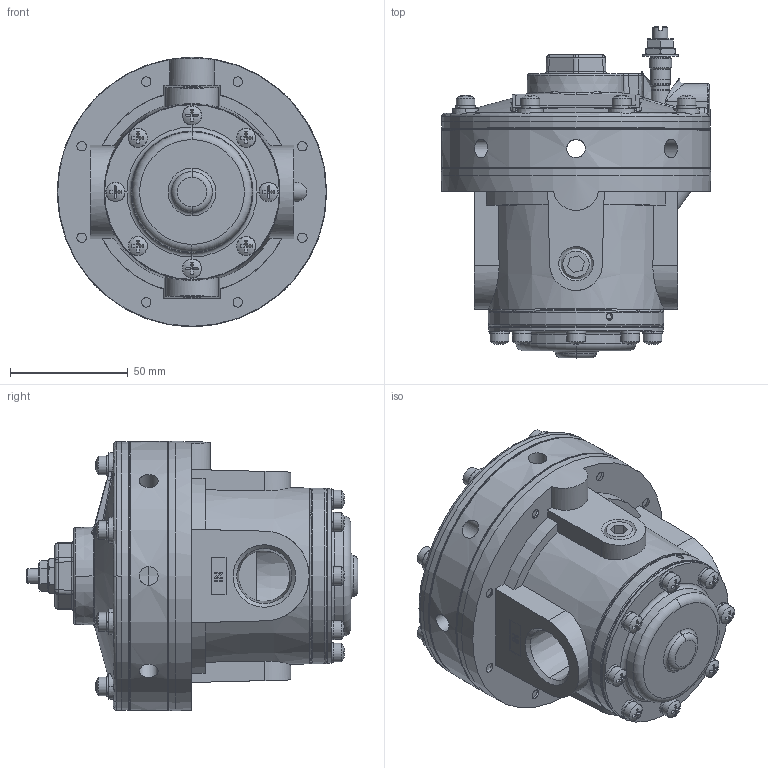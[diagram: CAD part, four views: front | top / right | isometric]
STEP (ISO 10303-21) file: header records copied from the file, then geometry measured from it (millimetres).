
FILE_DESCRIPTION(/* description */ (''),/* implementation_level */ '2;1');
FILE_NAME(/* name */ 'U:/AirCom-Produktdokumentation/Druckregler/DB450/Zeichnungen/CAD-Aircom/3D/B-DB450-06.step',/* time_stamp */ '2021-08-02T08:18:51+02:00',/* author */ (''),/* organization */ (''),/* preprocessor_version */ 'ST-DEVELOPER v18.1',/* originating_system */ 'Autodesk Translation Framework v10.9.0.1377',/* authorisation */ '');
FILE_SCHEMA (('AUTOMOTIVE_DESIGN { 1 0 10303 214 3 1 1 }'));
Products named in the file (1): B-R450-06I
Bounding box: 114.47 x 141.05 x 114.47 mm (x, y, z)
Volume: 416427.3 mm3; surface area: 214087.2 mm2
Topology: 47 solids, 47 shells, 1654 faces, 3970 edges, 2501 vertices
Faces by surface type: plane 874, cylinder 228, cone 198, torus 191, bspline 143, sphere 20
Full cylindrical faces by diameter (mm): 3.175 x9, 4.496 x1, 4.75 x13, 4.763 x1, 4.826 x16, 5.105 x8, 5.156 x8, 5.334 x1, 5.385 x2, 5.41 x2, 5.715 x24, 6.35 x9, 7.874 x2, 7.925 x8, 7.95 x16, 8.255 x1, 8.433 x1, 8.814 x4, 9.525 x1, 10.001 x1, 25.4 x2, 33.477 x1, 39.675 x1, 41.275 x1, 42.189 x1, 47.625 x2, 48.539 x2, 53.061 x2, 53.975 x2, 54.229 x1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
Entity records: 61898 total; most frequent: CARTESIAN_POINT 22461, DIRECTION 8020, ORIENTED_EDGE 7910, EDGE_CURVE 3955, AXIS2_PLACEMENT_3D 3185, VERTEX_POINT 2501, EDGE_LOOP 1944, FACE_OUTER_BOUND 1654
